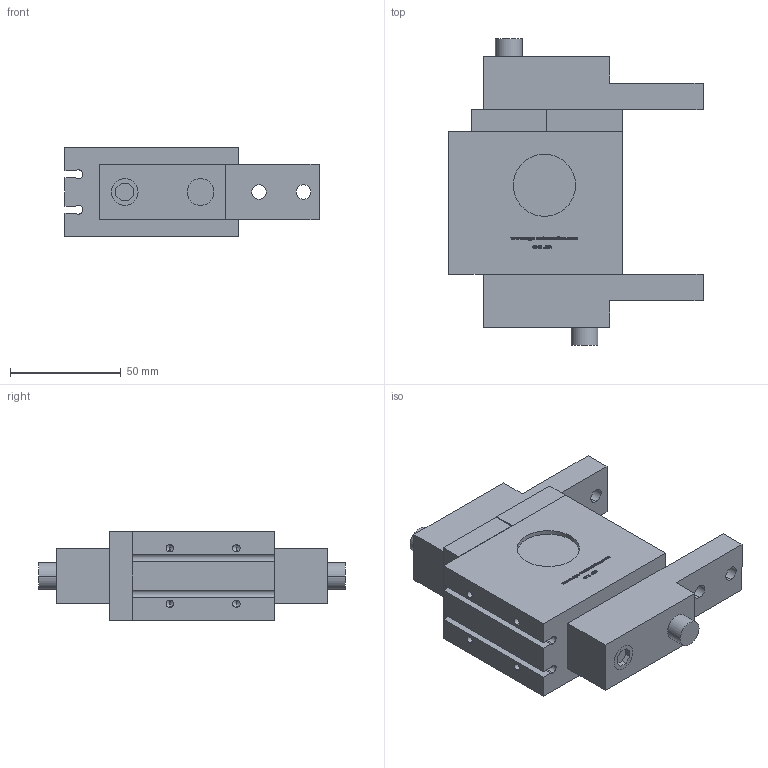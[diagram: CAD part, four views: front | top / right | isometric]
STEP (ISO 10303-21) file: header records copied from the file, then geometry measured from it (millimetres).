
FILE_DESCRIPTION (( 'STEP AP203' ), '1' );
FILE_NAME ('GDL.32close.STEP', '2011-11-07T09:58:02', ( 'Christophe Gaillard' ), ( 'SGA' ), 'SwSTEP 2.0', 'SolidWorks 2010', '' );
FILE_SCHEMA (( 'CONFIG_CONTROL_DESIGN' ));
Products named in the file (5): Pièce3; Pièce2; GDL.32close; GDL.32_Default; Pièce1
Assembly tree (6 placements, depth 2):
  GDL.32close
    Pièce3  x2
    Pièce1
    Pièce2  x2
    GDL.32_Default
Bounding box: 114.44 x 138 x 40 mm (x, y, z)
Volume: 316692.4 mm3; surface area: 70034.8 mm2
Topology: 6 solids, 6 shells, 570 faces, 1509 edges, 996 vertices
Faces by surface type: plane 285, bspline 207, cylinder 66, cone 12
Entity records: 31208 total; most frequent: CARTESIAN_POINT 18531, ORIENTED_EDGE 2850, DIRECTION 1807, EDGE_CURVE 1425, VERTEX_POINT 948, VECTOR 899, LINE 899, EDGE_LOOP 609
